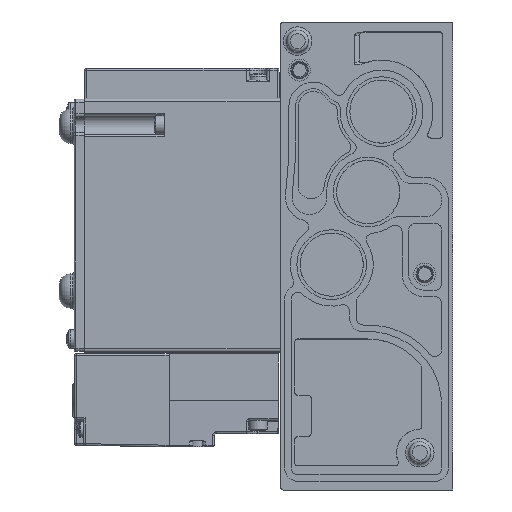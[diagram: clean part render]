
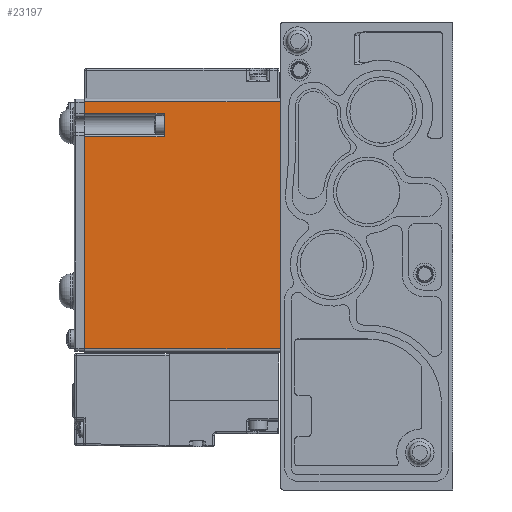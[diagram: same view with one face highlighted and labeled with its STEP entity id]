
A CAD part, left-side view. The second image highlights one B-rep face of the part: STEP entity #23197.
In plain terms, the highlighted planar face has unit normal (-1, 0, 0).
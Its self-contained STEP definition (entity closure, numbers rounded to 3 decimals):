
#2018 = VECTOR ( 'NONE', #82372, 1000. ) ;
#2224 = ORIENTED_EDGE ( 'NONE', *, *, #66936, .F. ) ;
#2452 = EDGE_CURVE ( 'NONE', #67095, #57385, #83314, .T. ) ;
#3420 = DIRECTION ( 'NONE',  ( 0., 0., 1. ) ) ;
#3764 = PLANE ( 'NONE',  #32779 ) ;
#8986 = CARTESIAN_POINT ( 'NONE',  ( -12., 0., 37.25 ) ) ;
#10399 = CARTESIAN_POINT ( 'NONE',  ( -12., 59., 38.25 ) ) ;
#11618 = DIRECTION ( 'NONE',  ( 0., 1., 0. ) ) ;
#13053 = VECTOR ( 'NONE', #11618, 1000. ) ;
#13131 = CARTESIAN_POINT ( 'NONE',  ( -12., 59., 38.25 ) ) ;
#16158 = DIRECTION ( 'NONE',  ( 0., 0., 1. ) ) ;
#16331 = CARTESIAN_POINT ( 'NONE',  ( -12., 59., 37.25 ) ) ;
#18609 = VECTOR ( 'NONE', #104493, 1000. ) ;
#20341 = CARTESIAN_POINT ( 'NONE',  ( -12., 59., 33.75 ) ) ;
#21050 = FACE_OUTER_BOUND ( 'NONE', #29900, .T. ) ;
#21299 = ORIENTED_EDGE ( 'NONE', *, *, #63509, .F. ) ;
#21723 = DIRECTION ( 'NONE',  ( 0., 0., 1. ) ) ;
#22595 = VECTOR ( 'NONE', #53401, 1000. ) ;
#23197 = ADVANCED_FACE ( 'NONE', ( #21050 ), #3764, .T. ) ;
#24603 = CARTESIAN_POINT ( 'NONE',  ( -12., 35., 33.75 ) ) ;
#25277 = VERTEX_POINT ( 'NONE', #86157 ) ;
#27716 = ORIENTED_EDGE ( 'NONE', *, *, #2452, .T. ) ;
#27918 = LINE ( 'NONE', #10399, #22595 ) ;
#28459 = VECTOR ( 'NONE', #3420, 1000. ) ;
#29777 = LINE ( 'NONE', #16331, #49586 ) ;
#29900 = EDGE_LOOP ( 'NONE', ( #2224, #27716, #97932, #71138, #50118, #67536, #21299, #63906 ) ) ;
#32779 = AXIS2_PLACEMENT_3D ( 'NONE', #13131, #72185, #21723 ) ;
#32969 = EDGE_CURVE ( 'NONE', #87322, #83552, #59252, .T. ) ;
#33835 = CARTESIAN_POINT ( 'NONE',  ( -12., 59., 26.75 ) ) ;
#36905 = VECTOR ( 'NONE', #58532, 1000. ) ;
#38565 = CARTESIAN_POINT ( 'NONE',  ( -12., 59., 37.25 ) ) ;
#41391 = CARTESIAN_POINT ( 'NONE',  ( -12., 35., 33.75 ) ) ;
#42043 = DIRECTION ( 'NONE',  ( 0., 1., 0. ) ) ;
#45351 = CARTESIAN_POINT ( 'NONE',  ( -12., 0., -37.25 ) ) ;
#49586 = VECTOR ( 'NONE', #42043, 1000. ) ;
#49870 = CARTESIAN_POINT ( 'NONE',  ( -12., 35., 26.75 ) ) ;
#50118 = ORIENTED_EDGE ( 'NONE', *, *, #64356, .F. ) ;
#53401 = DIRECTION ( 'NONE',  ( 0., 0., 1. ) ) ;
#53897 = CARTESIAN_POINT ( 'NONE',  ( -12., 35., 26.75 ) ) ;
#57385 = VERTEX_POINT ( 'NONE', #100979 ) ;
#58436 = VERTEX_POINT ( 'NONE', #33835 ) ;
#58532 = DIRECTION ( 'NONE',  ( 0., 1., 0. ) ) ;
#59252 = LINE ( 'NONE', #24603, #36905 ) ;
#63509 = EDGE_CURVE ( 'NONE', #25277, #87322, #73919, .T. ) ;
#63906 = ORIENTED_EDGE ( 'NONE', *, *, #68674, .T. ) ;
#64356 = EDGE_CURVE ( 'NONE', #83552, #85465, #27918, .T. ) ;
#66100 = EDGE_CURVE ( 'NONE', #91796, #85465, #29777, .T. ) ;
#66936 = EDGE_CURVE ( 'NONE', #67095, #58436, #95883, .T. ) ;
#67095 = VERTEX_POINT ( 'NONE', #90050 ) ;
#67536 = ORIENTED_EDGE ( 'NONE', *, *, #32969, .F. ) ;
#68674 = EDGE_CURVE ( 'NONE', #25277, #58436, #103150, .T. ) ;
#69299 = EDGE_CURVE ( 'NONE', #91796, #57385, #94829, .T. ) ;
#71138 = ORIENTED_EDGE ( 'NONE', *, *, #66100, .T. ) ;
#72185 = DIRECTION ( 'NONE',  ( -1., 0., 0. ) ) ;
#73919 = LINE ( 'NONE', #49870, #76570 ) ;
#76570 = VECTOR ( 'NONE', #16158, 1000. ) ;
#82372 = DIRECTION ( 'NONE',  ( 0., 0., -1. ) ) ;
#83314 = LINE ( 'NONE', #45351, #18609 ) ;
#83552 = VERTEX_POINT ( 'NONE', #20341 ) ;
#85465 = VERTEX_POINT ( 'NONE', #38565 ) ;
#86157 = CARTESIAN_POINT ( 'NONE',  ( -12., 35., 26.75 ) ) ;
#87322 = VERTEX_POINT ( 'NONE', #41391 ) ;
#90050 = CARTESIAN_POINT ( 'NONE',  ( -12., 59., -37.25 ) ) ;
#91796 = VERTEX_POINT ( 'NONE', #8986 ) ;
#94829 = LINE ( 'NONE', #107802, #2018 ) ;
#95883 = LINE ( 'NONE', #104991, #28459 ) ;
#97932 = ORIENTED_EDGE ( 'NONE', *, *, #69299, .F. ) ;
#100979 = CARTESIAN_POINT ( 'NONE',  ( -12., 0., -37.25 ) ) ;
#103150 = LINE ( 'NONE', #53897, #13053 ) ;
#104493 = DIRECTION ( 'NONE',  ( 0., -1., 0. ) ) ;
#104991 = CARTESIAN_POINT ( 'NONE',  ( -12., 59., 38.25 ) ) ;
#107802 = CARTESIAN_POINT ( 'NONE',  ( -12., 0., 38.25 ) ) ;
